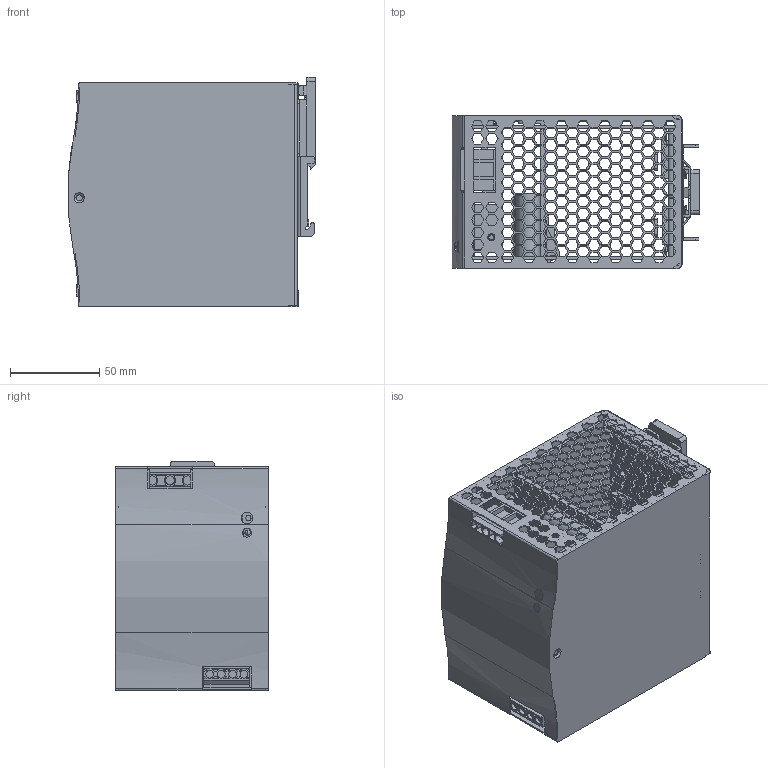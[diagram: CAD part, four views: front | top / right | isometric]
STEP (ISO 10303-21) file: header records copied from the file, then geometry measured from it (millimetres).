
FILE_DESCRIPTION(('Creo Elements/Direct Modeling STEP Export'),'2;1');
FILE_NAME('NDR-480.stp','2015-11-19T13:16:09',(''),(''),'PTC Creo Elements/Direct Modeling STEP processor for AP214 (Solid Model)','PTC Creo Elements/Direct Modeling 19.0 09-May-2014 (C) Parametric Technology GmbH','');
FILE_SCHEMA(('AUTOMOTIVE_DESIGN { 1 0 10303 214 1 1 1 1 }'));
Length unit declared in the file: millimetre
Products named in the file (25): a2; a1; ÝƒÛy; ˋ°Ûy; ˋTˋwÊª1.2; ˋTˋwÊª1; ËÔˆO; PCB1.1.2; PCB1.1.1; PCB1.1; a2.1; PCB1; MOSTO3P; MOS15.5x10.1.1.1.1.1.1.1.1; MOS; DDD; pin.1.2; hs4; ÊUˆO; MOS15.5x10.2.1.1.1; pcb3; MOS15.5x10.1.1.1.1.1.1.2.1.1.1.1; m; ÊWˆO; NDR-480
Assembly tree (27 placements, depth 4):
  NDR-480
    ÊWˆO
      m
        MOS15.5x10.1.1.1.1.1.1.2.1.1.1.1
      MOS15.5x10.2.1.1.1  x2
      pcb3
    ÊUˆO
      hs4
        pin.1.2
        DDD
      MOS
        MOS15.5x10.1.1.1.1.1.1.1.1  x2
      MOSTO3P  x2
      PCB1
        a2.1
        PCB1.1
        PCB1.1.1
        PCB1.1.2
    ËÔˆO
    ˋTˋwÊª1
    ˋTˋwÊª1.2
    ˋ°Ûy
    ÝƒÛy
    a1
    a2
Bounding box: 138.66 x 85.5 x 128.28 mm (x, y, z)
Volume: 234223.6 mm3; surface area: 264547.7 mm2
Topology: 15 solids, 15 shells, 3531 faces, 10212 edges, 6763 vertices
Faces by surface type: plane 2999, cylinder 429, cone 84, torus 10, bspline 9
Entity records: 106658 total; most frequent: CARTESIAN_POINT 21842, ORIENTED_EDGE 20076, DIRECTION 13572, EDGE_CURVE 10038, VECTOR 7854, LINE 7854, VERTEX_POINT 6647, EDGE_LOOP 4439
